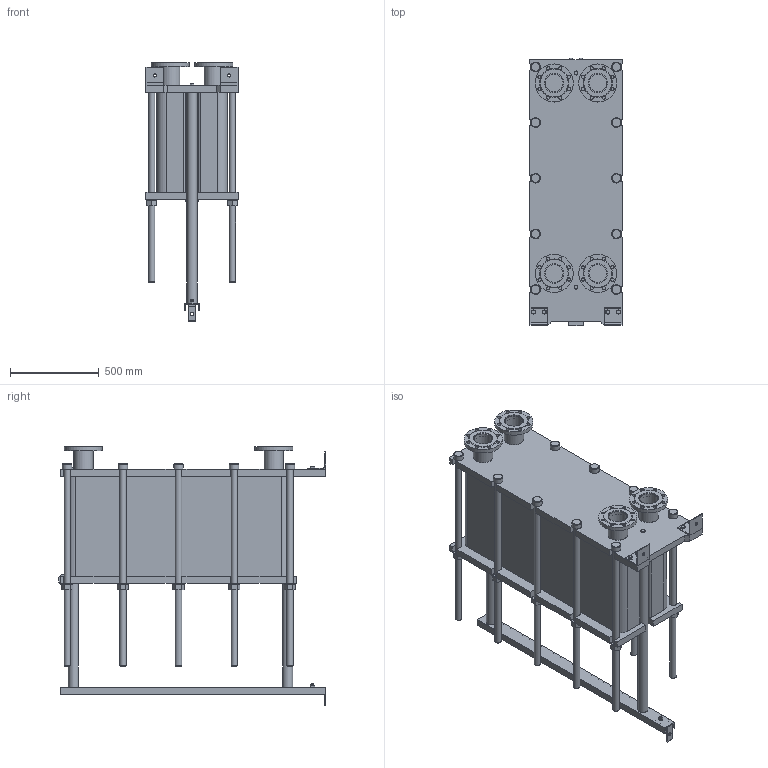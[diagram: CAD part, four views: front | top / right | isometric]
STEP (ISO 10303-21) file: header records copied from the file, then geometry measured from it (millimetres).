
FILE_DESCRIPTION(/* description */ (''),/* implementation_level */ '2;1');
FILE_NAME(/* name */ 'C:\Users\zhuro\Desktop\ENCO\TO\ЭН-04\ЭН-0,5-04-164-1.stp',/* time_stamp */ '2022-06-06T10:59:48+03:00',/* author */ ('zhuro'),/* organization */ (''),/* preprocessor_version */ 'ST-DEVELOPER v18.1',/* originating_system */ 'Autodesk Inventor 2022',/* authorisation */ '');
FILE_SCHEMA (('AUTOMOTIVE_DESIGN { 1 0 10303 214 3 1 1 }'));
Length unit declared in the file: millimetre
Products named in the file (1): ЭН-0,5-04-164-1
Bounding box: 520 x 1510 x 1467 mm (x, y, z)
Volume: 357413054.1 mm3; surface area: 9762628 mm2
Topology: 45 solids, 45 shells, 668 faces, 1611 edges, 1048 vertices
Faces by surface type: plane 457, cylinder 166, cone 39, torus 6
Full cylindrical faces by diameter (mm): 8 x4, 10 x2, 16 x8, 18 x35, 36 x25, 40 x2, 42 x1, 45 x4, 54 x10, 57 x2, 60 x10, 68 x2, 100 x4, 110 x8, 215 x4
Entity records: 23607 total; most frequent: CARTESIAN_POINT 7348, DIRECTION 3371, ORIENTED_EDGE 3142, EDGE_CURVE 1571, AXIS2_PLACEMENT_3D 1199, VERTEX_POINT 1044, LINE 973, VECTOR 973
